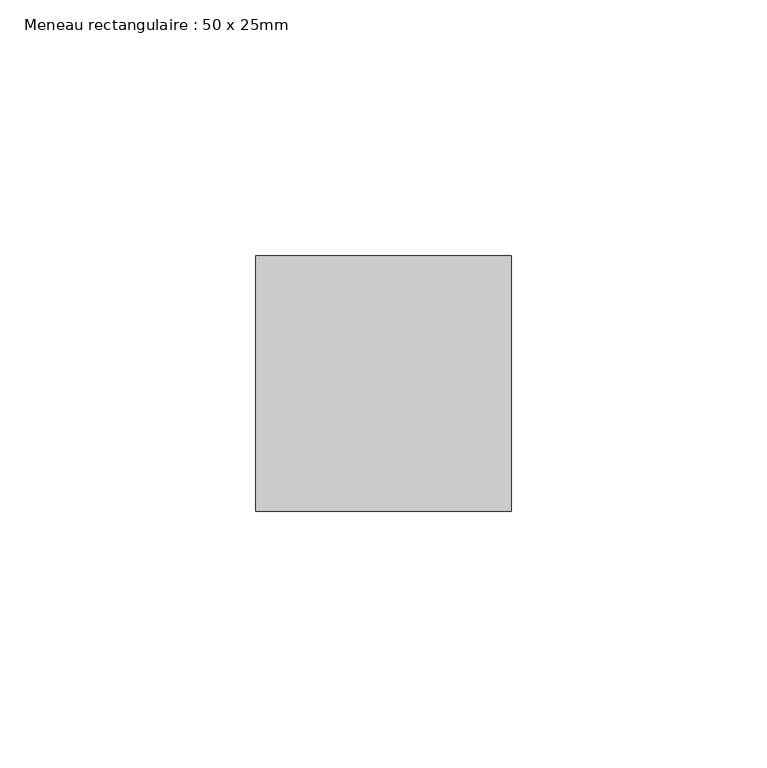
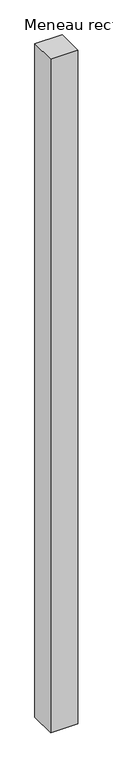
"""IFC4 building model written with IfcOpenShell, lengths in millimetres: member geometry, Meneau rectangulaire : 50 x 25mm."""

import ifcopenshell
import ifcopenshell.guid

model = None  # the IFC model being written
_history = None  # IfcOwnerHistory: only IFC2X3 demands one
_inside = {}  # id of a spatial element -> (the spatial element, [elements in it])
_under = {}  # id of a project, library or spatial element -> (it, [spatial elements below it])
_declared = {}  # id of a project -> (the project, [libraries it declares])
_typed = {}  # id of a type object -> (the type object, [elements of that type])
_made_of = {}  # id of a material, layer set ... -> (it, [elements and type objects made of it])


def new_model(schema):
    """Start an empty IFC model of exactly this schema.

    Asked for "IFC4X3", IfcOpenShell would pick the latest addendum, in which some entities
    have other attributes; the version numbers below select the first issue.
    IFC2X3 requires an IfcOwnerHistory on every rooted entity: one is made here for all.
    """
    global model, _history
    if schema == "IFC4X3":
        model = ifcopenshell.file(schema_version=(4, 3, 0, 0))
    else:
        model = ifcopenshell.file(schema=schema)
    _inside.clear()
    _under.clear()
    _declared.clear()
    _typed.clear()
    _made_of.clear()
    _history = None
    if model.schema == "IFC2X3":
        org = make("IfcOrganization", Name="unknown")
        user = make(
            "IfcPersonAndOrganization",
            ThePerson=make("IfcPerson", FamilyName="unknown"),
            TheOrganization=org,
        )
        app = make(
            "IfcApplication",
            ApplicationDeveloper=org,
            Version="unknown",
            ApplicationFullName="unknown",
            ApplicationIdentifier="unknown",
        )
        _history = make(
            "IfcOwnerHistory",
            OwningUser=user,
            OwningApplication=app,
            ChangeAction="ADDED",
            CreationDate=0,
        )
    return model


def make(cls, **values):
    """One entity of the class cls with the attributes given. An attribute that is None is left unset."""
    return model.create_entity(
        cls, **{name: value for name, value in values.items() if value is not None}
    )


def rooted(cls, **values):
    """An entity with a GlobalId (a new one), such as an element, a storey or a relation."""
    return make(cls, GlobalId=ifcopenshell.guid.new(), OwnerHistory=_history, **values)


def si_unit(unit_type, name, prefix=None):
    """IfcSIUnit, for example si_unit("LENGTHUNIT", "METRE", prefix="MILLI")."""
    return make("IfcSIUnit", UnitType=unit_type, Prefix=prefix, Name=name)


def assignment(units):
    """IfcUnitAssignment: the units of a project."""
    return None if units is None else make("IfcUnitAssignment", Units=units)


def point(xyz):
    """IfcCartesianPoint."""
    return None if xyz is None else make("IfcCartesianPoint", Coordinates=xyz)


def direction(xyz):
    """IfcDirection."""
    return None if xyz is None else make("IfcDirection", DirectionRatios=xyz)


def frame(location, z_axis=None, x_axis=None):
    """IfcAxis2Placement3D, a coordinate frame: its origin and axes. An axis left out is left unset."""
    return make(
        "IfcAxis2Placement3D",
        Location=point(location),
        Axis=direction(z_axis),
        RefDirection=direction(x_axis),
    )


def origin():
    """The frame at (0, 0, 0) with its axes left unset."""
    return frame((0.0, 0.0, 0.0))


def place(relative_to, where):
    """IfcLocalPlacement: puts the frame where relative to a parent placement (None: the world)."""
    return make(
        "IfcLocalPlacement", PlacementRelTo=relative_to, RelativePlacement=where
    )


def context(
    kind, dimensions, precision=None, world=None, true_north=None, identifier=None
):
    """IfcGeometricRepresentationContext, for example the 3D "Model" context."""
    return make(
        "IfcGeometricRepresentationContext",
        ContextIdentifier=identifier,
        ContextType=kind,
        CoordinateSpaceDimension=dimensions,
        Precision=precision,
        WorldCoordinateSystem=world,
        TrueNorth=true_north,
    )


def project(units=None, contexts=None):
    """IfcProject with its units and contexts."""
    return rooted(
        "IfcProject",
        Name="project",
        RepresentationContexts=contexts,
        UnitsInContext=assignment(units),
    )


def spatial(cls, under=None, at=None, **own):
    """A site, building, storey or space (cls), placed at a placement, below another one or the project."""
    s = rooted(cls, ObjectPlacement=at, **own)
    if under is not None:
        _under.setdefault(under.id(), (under, []))[1].append(s)
    return s


def polyline(points):
    """IfcPolyline through the points."""
    return make("IfcPolyline", Points=[point(p) for p in points])


def outline(outer, holes=None, kind="AREA"):
    """IfcArbitraryClosedProfileDef: a profile drawn as a closed curve; with holes, ...WithVoids."""
    if holes is None:
        return make("IfcArbitraryClosedProfileDef", ProfileType=kind, OuterCurve=outer)
    return make(
        "IfcArbitraryProfileDefWithVoids",
        ProfileType=kind,
        OuterCurve=outer,
        InnerCurves=holes,
    )


def extrude(swept, where, along, depth):
    """IfcExtrudedAreaSolid: the profile swept, set in the frame where, extruded along a direction by depth."""
    return make(
        "IfcExtrudedAreaSolid",
        SweptArea=swept,
        Position=where,
        ExtrudedDirection=direction(along),
        Depth=depth,
    )


def shape(context_of_items, identifier, shape_type, items):
    """IfcShapeRepresentation: the items that make up one representation, for example the "Body"."""
    return make(
        "IfcShapeRepresentation",
        ContextOfItems=context_of_items,
        RepresentationIdentifier=identifier,
        RepresentationType=shape_type,
        Items=items,
    )


def source(mapping_origin, context_of_items, identifier, shape_type, items):
    """IfcRepresentationMap: a shape defined once, which mapped items show again and again."""
    return make(
        "IfcRepresentationMap",
        MappingOrigin=mapping_origin,
        MappedRepresentation=shape(context_of_items, identifier, shape_type, items),
    )


def transform(
    local_origin,
    x_axis=None,
    y_axis=None,
    z_axis=None,
    scale=None,
    scale2=None,
    scale3=None,
    uniform=True,
):
    """IfcCartesianTransformationOperator3D, or its non-uniform kind. x_axis, y_axis, z_axis: its Axis1, 2, 3."""
    if uniform:
        return make(
            "IfcCartesianTransformationOperator3D",
            Axis1=direction(x_axis),
            Axis2=direction(y_axis),
            LocalOrigin=point(local_origin),
            Scale=scale,
            Axis3=direction(z_axis),
        )
    return make(
        "IfcCartesianTransformationOperator3DnonUniform",
        Axis1=direction(x_axis),
        Axis2=direction(y_axis),
        LocalOrigin=point(local_origin),
        Scale=scale,
        Axis3=direction(z_axis),
        Scale2=scale2,
        Scale3=scale3,
    )


def mapped(mapping_source, mapping_target):
    """IfcMappedItem: shows the shape of a source again, moved by a transform."""
    return make(
        "IfcMappedItem", MappingSource=mapping_source, MappingTarget=mapping_target
    )


def made_of(thing, what):
    """Note that an element or type object is made of a material, layer set ...; save() writes the relation."""
    if what is not None:
        _made_of.setdefault(what.id(), (what, []))[1].append(thing)
    return thing


def element(
    cls,
    number,
    at=None,
    inside=None,
    cuts=None,
    type_object=None,
    material=None,
    context=None,
    identifier="Body",
    shape_type=None,
    held_by="IfcProductDefinitionShape",
    body=None,
    shapes=None,
    **own,
):
    """One element of the class cls, such as IfcWall. Its Tag is "e" and its number.

    at: its placement. inside: the storey or other place that contains it. cuts: it is an
    opening in that element (IfcRelVoidsElement). A single representation is given by context,
    identifier, shape_type and body (its items); several are given by shapes. held_by: the class
    of the entity that holds the representations. save() writes the other relations.
    """
    e = rooted(cls, Tag="e%d" % number, ObjectPlacement=at, **own)
    if body is not None:
        shapes = [shape(context, identifier, shape_type, body)]
    if shapes is not None:
        e.Representation = make(held_by, Representations=shapes)
    if inside is not None:
        _inside.setdefault(inside.id(), (inside, []))[1].append(e)
    if cuts is not None:
        rooted(
            "IfcRelVoidsElement", RelatingBuildingElement=cuts, RelatedOpeningElement=e
        )
    if type_object is not None:
        _typed.setdefault(type_object.id(), (type_object, []))[1].append(e)
    return made_of(e, material)


def aggregate(whole, parts):
    """IfcRelAggregates: a whole, such as a stair, and the parts it consists of."""
    return rooted("IfcRelAggregates", RelatingObject=whole, RelatedObjects=parts)


def save(model, path):
    """Write the relations noted so far, then the file.

    IfcRelAggregates (storeys below a building ...), IfcRelContainedInSpatialStructure (elements
    in a storey), IfcRelDefinesByType, IfcRelAssociatesMaterial and IfcRelDeclares: one each for
    every whole, place, type object, material and project.
    """
    for whole, parts in _under.values():
        aggregate(whole, parts)
    for where, things in _inside.values():
        rooted(
            "IfcRelContainedInSpatialStructure",
            RelatedElements=things,
            RelatingStructure=where,
        )
    for kind, things in _typed.values():
        rooted("IfcRelDefinesByType", RelatedObjects=things, RelatingType=kind)
    for what, things in _made_of.values():
        rooted("IfcRelAssociatesMaterial", RelatedObjects=things, RelatingMaterial=what)
    for by, libraries in _declared.values():
        rooted("IfcRelDeclares", RelatingContext=by, RelatedDefinitions=libraries)
    model.write(path)


def meneau_rectangulaire_50_x_25mm_6723ce13(model_context):
    return source(origin(), model_context, "Body", "SweptSolid", [
        extrude(outline(polyline([(0.0, 0.0), (0.0, -50.0), (-50.0, -50.0), (-50.0, 0.0), (0.0, 0.0)])), frame((0.0, 0.0, -1312.0), z_axis=(0.0, 0.0, 1.0), x_axis=(1.0, 0.0, 0.0)), (0.0, 0.0, 1.0), 1312.0),
    ])


if __name__ == "__main__":
    model = new_model("IFC4")
    model_context = context("Model", 3, world=origin())
    ifc_project = project(units=[si_unit("LENGTHUNIT", "METRE", prefix="MILLI")], contexts=[model_context])
    site = spatial("IfcSite", under=ifc_project)
    building = spatial("IfcBuilding", under=site)
    placement = place(None, origin())
    meneau_rectangulaire_50_x_25mm_shape = meneau_rectangulaire_50_x_25mm_6723ce13(model_context)
    element("IfcMember", 1, ObjectType="Meneau rectangulaire : 50 x 25mm", at=placement, inside=building, context=model_context, shape_type="MappedRepresentation", body=[
        mapped(meneau_rectangulaire_50_x_25mm_shape, transform((0.0, 0.0, 0.0), x_axis=(1.0, 0.0, 0.0), y_axis=(0.0, 1.0, 0.0), z_axis=(0.0, 0.0, 1.0))),
    ])
    save(model, "model.ifc")
